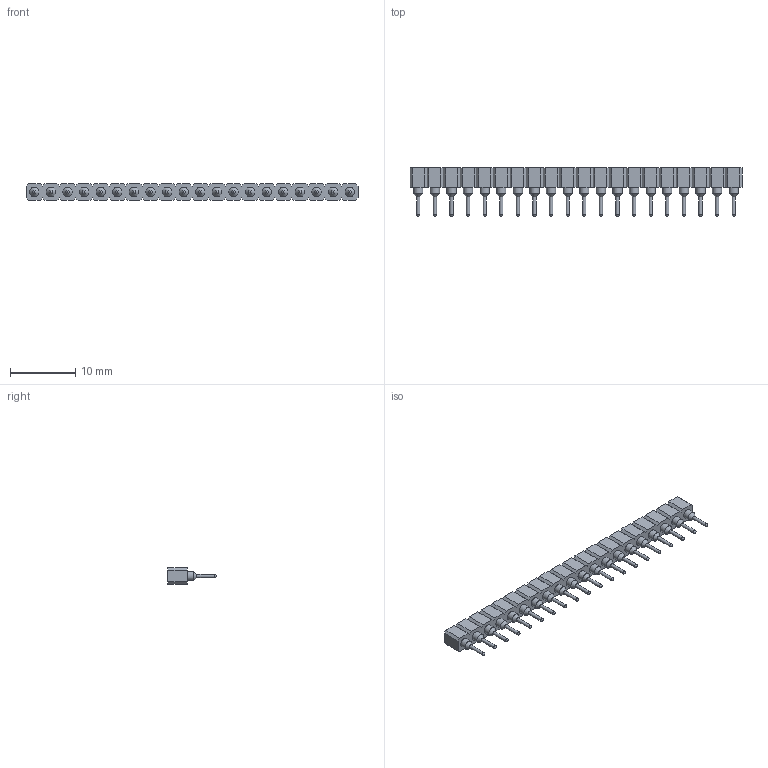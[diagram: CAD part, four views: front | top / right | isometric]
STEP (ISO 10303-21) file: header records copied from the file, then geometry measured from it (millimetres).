
FILE_DESCRIPTION(/* description */ (''),/* implementation_level */ '2;1');
FILE_NAME(/* name */ 'Header Female 1x20 v7.step',/* time_stamp */ '2024-11-11T16:36:45+01:00',/* author */ (''),/* organization */ (''),/* preprocessor_version */ 'ST-DEVELOPER v20',/* originating_system */ 'Autodesk Translation Framework v13.20.0.188',/* authorisation */ '');
FILE_SCHEMA (('AUTOMOTIVE_DESIGN { 1 0 10303 214 3 1 1 }'));
Length unit declared in the file: millimetre
Products named in the file (3): Header Female 1x20; Pin; Plastic
Assembly tree (2 placements, depth 2):
  Header Female 1x20
    Pin
    Plastic
Bounding box: 50.8 x 7.43 x 2.54 mm (x, y, z)
Volume: 373.5 mm3; surface area: 1572.7 mm2
Topology: 21 solids, 21 shells, 344 faces, 766 edges, 484 vertices
Faces by surface type: plane 184, cylinder 80, cone 60, bspline 20
Full cylindrical faces by diameter (mm): 0.51 x20, 0.9 x20, 1.42 x40
Entity records: 10072 total; most frequent: CARTESIAN_POINT 2119, DIRECTION 1684, ORIENTED_EDGE 1532, EDGE_CURVE 766, AXIS2_PLACEMENT_3D 589, LINE 506, VECTOR 506, VERTEX_POINT 484
